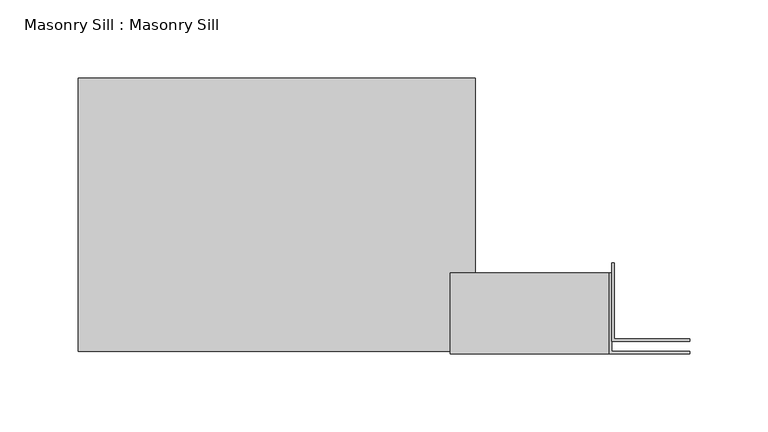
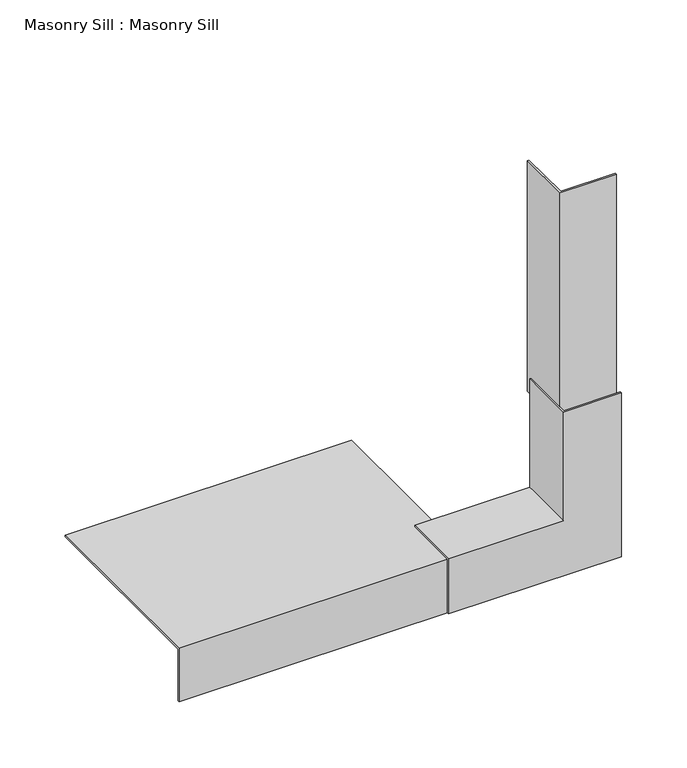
"""IFC4 building model written with IfcOpenShell, lengths in millimetres: proxy geometry, Masonry Sill : Masonry Sill."""

from ifc_helpers import new_model, si_unit, frame, origin, place, context, project, spatial, polyline, outline, extrude, faceted_brep, source, transform, mapped, element, save


def masonry_sill_masonry_sill_390e7bcf(model_context):
    return source(origin(), model_context, "Body", "SolidModel", [
        extrude(outline(polyline([(26855.8851773, 632.3941297), (26855.8851773, 682.3989454), (26857.4726773, 682.3989454), (26857.4726773, 633.9816297), (26905.8899931, 633.9816297), (26905.8899931, 632.3941297), (26855.8851773, 632.3941297)])), frame((0.0, 0.0, 546.1), z_axis=(0.0, 0.0, 1.0), x_axis=(1.0, 0.0, 0.0)), (0.0, 0.0, 1.0), 215.9),
        faceted_brep([(26752.6976773, 624.4566297, 408.7826842), (26752.6976773, 624.4566297, 460.375), (26752.6976773, 676.0489454, 460.375), (26752.6976773, 676.0489454, 458.7875), (26752.6976773, 626.0441297, 458.7875), (26752.6976773, 626.0441297, 408.7826842), (26905.8899931, 626.0441297, 408.7826842), (26905.8899931, 624.4566297, 408.7826842), (26855.8851773, 626.0441297, 458.7875), (26855.8851773, 626.0441297, 561.975), (26905.8899931, 626.0441297, 561.975), (26855.8851773, 676.0489454, 458.7875), (26854.2976773, 676.0489454, 460.375), (26854.2976773, 676.0489454, 561.975), (26855.8851773, 676.0489454, 561.975), (26854.2976773, 624.4566297, 460.375), (26905.8899931, 624.4566297, 561.975), (26854.2976773, 624.4566297, 561.975)], [[[0, 1, 2, 3, 4, 5]], [[0, 5, 6, 7]], [[5, 4, 8, 9, 10, 6]], [[4, 3, 11, 8]], [[3, 2, 12, 13, 14, 11]], [[2, 1, 15, 12]], [[1, 0, 7, 16, 17, 15]], [[16, 10, 9, 14, 13, 17]], [[7, 6, 10, 16]], [[8, 11, 14, 9]], [[12, 15, 17, 13]]]),
        extrude(outline(polyline([(626.0441297, 458.7875), (800.9450925, 458.7875), (800.9450925, 457.2), (627.6316297, 457.2), (627.6316297, 408.7826842), (626.0441297, 408.7826842), (626.0441297, 458.7875)])), frame((26514.5726773, 0.0, 0.0), z_axis=(1.0, 0.0, 0.0), x_axis=(0.0, 1.0, 0.0)), (0.0, 0.0, 1.0), 254.0),
    ])


if __name__ == "__main__":
    model = new_model("IFC4")
    model_context = context("Model", 3, world=origin())
    ifc_project = project(units=[si_unit("LENGTHUNIT", "METRE", prefix="MILLI")], contexts=[model_context])
    site = spatial("IfcSite", under=ifc_project)
    building = spatial("IfcBuilding", under=site)
    placement = place(None, origin())
    masonry_sill_masonry_sill_shape = masonry_sill_masonry_sill_390e7bcf(model_context)
    element("IfcBuildingElementProxy", 1, Name="Masonry Sill : Masonry Sill", ObjectType="Masonry Sill : Masonry Sill", at=placement, inside=building, context=model_context, shape_type="MappedRepresentation", body=[
        mapped(masonry_sill_masonry_sill_shape, transform((0.0, 0.0, 0.0), x_axis=(1.0, 0.0, 0.0), y_axis=(0.0, 1.0, 0.0), z_axis=(0.0, 0.0, 1.0))),
    ])
    save(model, "model.ifc")
